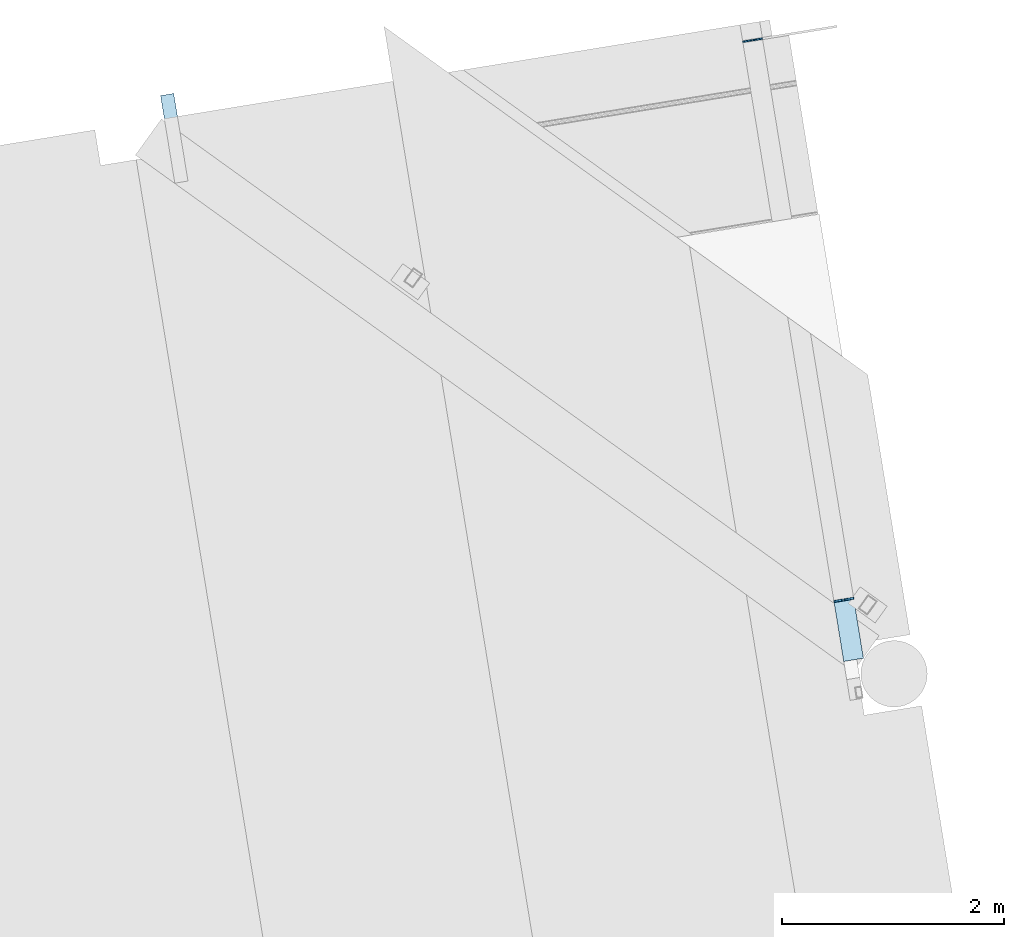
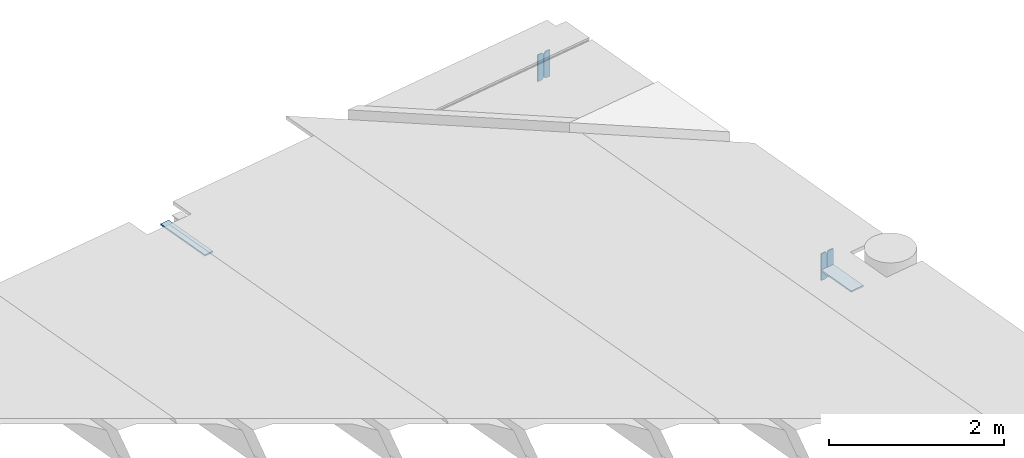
# One storey, part 4 of 5: 6 plates.
"""IFC2X3 building model written with IfcOpenShell, lengths in millimetres."""

import ifcopenshell
import ifcopenshell.guid

model = None  # the IFC model being written
_history = None  # IfcOwnerHistory: only IFC2X3 demands one
_inside = {}  # id of a spatial element -> (the spatial element, [elements in it])
_under = {}  # id of a project, library or spatial element -> (it, [spatial elements below it])
_declared = {}  # id of a project -> (the project, [libraries it declares])
_typed = {}  # id of a type object -> (the type object, [elements of that type])
_made_of = {}  # id of a material, layer set ... -> (it, [elements and type objects made of it])


def new_model(schema):
    """Start an empty IFC model of exactly this schema.

    Asked for "IFC4X3", IfcOpenShell would pick the latest addendum, in which some entities
    have other attributes; the version numbers below select the first issue.
    IFC2X3 requires an IfcOwnerHistory on every rooted entity: one is made here for all.
    """
    global model, _history
    if schema == "IFC4X3":
        model = ifcopenshell.file(schema_version=(4, 3, 0, 0))
    else:
        model = ifcopenshell.file(schema=schema)
    _inside.clear()
    _under.clear()
    _declared.clear()
    _typed.clear()
    _made_of.clear()
    _history = None
    if model.schema == "IFC2X3":
        org = make("IfcOrganization", Name="unknown")
        user = make(
            "IfcPersonAndOrganization",
            ThePerson=make("IfcPerson", FamilyName="unknown"),
            TheOrganization=org,
        )
        app = make(
            "IfcApplication",
            ApplicationDeveloper=org,
            Version="unknown",
            ApplicationFullName="unknown",
            ApplicationIdentifier="unknown",
        )
        _history = make(
            "IfcOwnerHistory",
            OwningUser=user,
            OwningApplication=app,
            ChangeAction="ADDED",
            CreationDate=0,
        )
    return model


def make(cls, **values):
    """One entity of the class cls with the attributes given. An attribute that is None is left unset."""
    return model.create_entity(
        cls, **{name: value for name, value in values.items() if value is not None}
    )


def entity(cls, *values):
    """Any entity or typed value of the class cls, its attributes in the order of the schema. None: left unset."""
    e = model.create_entity(cls)
    for i, value in enumerate(values):
        if value is not None:
            e[i] = value
    return e


def rooted(cls, **values):
    """An entity with a GlobalId (a new one), such as an element, a storey or a relation."""
    return make(cls, GlobalId=ifcopenshell.guid.new(), OwnerHistory=_history, **values)


def si_unit(unit_type, name, prefix=None):
    """IfcSIUnit, for example si_unit("LENGTHUNIT", "METRE", prefix="MILLI")."""
    return make("IfcSIUnit", UnitType=unit_type, Prefix=prefix, Name=name)


def converted_unit(unit_type, name, factor, base, dimensions=None, offset=None):
    """IfcConversionBasedUnit, such as the inch: factor (a typed value) times the base unit."""
    return make(
        "IfcConversionBasedUnit"
        if offset is None
        else "IfcConversionBasedUnitWithOffset",
        ConversionOffset=offset,
        Dimensions=None
        if dimensions is None
        else entity("IfcDimensionalExponents", *dimensions),
        UnitType=unit_type,
        Name=name,
        ConversionFactor=make(
            "IfcMeasureWithUnit", ValueComponent=factor, UnitComponent=base
        ),
    )


def derived_unit(unit_type, elements):
    """IfcDerivedUnit: a product of units, each with its exponent."""
    return make(
        "IfcDerivedUnit",
        Elements=[
            make("IfcDerivedUnitElement", Unit=unit, Exponent=power)
            for unit, power in elements
        ],
        UnitType=unit_type,
    )


def assignment(units):
    """IfcUnitAssignment: the units of a project."""
    return None if units is None else make("IfcUnitAssignment", Units=units)


def point(xyz):
    """IfcCartesianPoint."""
    return None if xyz is None else make("IfcCartesianPoint", Coordinates=xyz)


def direction(xyz):
    """IfcDirection."""
    return None if xyz is None else make("IfcDirection", DirectionRatios=xyz)


def frame(location, z_axis=None, x_axis=None):
    """IfcAxis2Placement3D, a coordinate frame: its origin and axes. An axis left out is left unset."""
    return make(
        "IfcAxis2Placement3D",
        Location=point(location),
        Axis=direction(z_axis),
        RefDirection=direction(x_axis),
    )


def frame_2d(location, x_axis=None):
    """IfcAxis2Placement2D, a coordinate frame in the plane: its origin and x axis."""
    return make(
        "IfcAxis2Placement2D", Location=point(location), RefDirection=direction(x_axis)
    )


def origin():
    """The frame at (0, 0, 0) with its axes left unset."""
    return frame((0.0, 0.0, 0.0))


def origin_with_axes():
    """The frame at (0, 0, 0) with the z axis (0, 0, 1) and the x axis (1, 0, 0) written out."""
    return frame((0.0, 0.0, 0.0), z_axis=(0.0, 0.0, 1.0), x_axis=(1.0, 0.0, 0.0))


def place(relative_to, where):
    """IfcLocalPlacement: puts the frame where relative to a parent placement (None: the world)."""
    return make(
        "IfcLocalPlacement", PlacementRelTo=relative_to, RelativePlacement=where
    )


def context(
    kind, dimensions, precision=None, world=None, true_north=None, identifier=None
):
    """IfcGeometricRepresentationContext, for example the 3D "Model" context."""
    return make(
        "IfcGeometricRepresentationContext",
        ContextIdentifier=identifier,
        ContextType=kind,
        CoordinateSpaceDimension=dimensions,
        Precision=precision,
        WorldCoordinateSystem=world,
        TrueNorth=true_north,
    )


def subcontext(parent, identifier, kind, view, scale=None):
    """IfcGeometricRepresentationSubContext, for example "Body" below "Model"."""
    return make(
        "IfcGeometricRepresentationSubContext",
        ContextIdentifier=identifier,
        ContextType=kind,
        ParentContext=parent,
        TargetScale=scale,
        TargetView=view,
    )


def project(units=None, contexts=None):
    """IfcProject with its units and contexts."""
    return rooted(
        "IfcProject",
        Name="project",
        RepresentationContexts=contexts,
        UnitsInContext=assignment(units),
    )


def spatial(cls, under=None, at=None, **own):
    """A site, building, storey or space (cls), placed at a placement, below another one or the project."""
    s = rooted(cls, ObjectPlacement=at, **own)
    if under is not None:
        _under.setdefault(under.id(), (under, []))[1].append(s)
    return s


def polyline(points):
    """IfcPolyline through the points."""
    return make("IfcPolyline", Points=[point(p) for p in points])


def profile(cls, at=None, kind="AREA", **sizes):
    """A parametric profile (cls). Its sizes go by their IFC names, for example OverallWidth=200.0."""
    return make(cls, ProfileType=kind, Position=at, **sizes)


def rectangle(**sizes):
    """IfcRectangleProfileDef."""
    return profile("IfcRectangleProfileDef", **sizes)


def outline(outer, holes=None, kind="AREA"):
    """IfcArbitraryClosedProfileDef: a profile drawn as a closed curve; with holes, ...WithVoids."""
    if holes is None:
        return make("IfcArbitraryClosedProfileDef", ProfileType=kind, OuterCurve=outer)
    return make(
        "IfcArbitraryProfileDefWithVoids",
        ProfileType=kind,
        OuterCurve=outer,
        InnerCurves=holes,
    )


def extrude(swept, where, along, depth):
    """IfcExtrudedAreaSolid: the profile swept, set in the frame where, extruded along a direction by depth."""
    return make(
        "IfcExtrudedAreaSolid",
        SweptArea=swept,
        Position=where,
        ExtrudedDirection=direction(along),
        Depth=depth,
    )


def shape(context_of_items, identifier, shape_type, items):
    """IfcShapeRepresentation: the items that make up one representation, for example the "Body"."""
    return make(
        "IfcShapeRepresentation",
        ContextOfItems=context_of_items,
        RepresentationIdentifier=identifier,
        RepresentationType=shape_type,
        Items=items,
    )


def made_of(thing, what):
    """Note that an element or type object is made of a material, layer set ...; save() writes the relation."""
    if what is not None:
        _made_of.setdefault(what.id(), (what, []))[1].append(thing)
    return thing


def type_object(cls, material=None, **own):
    """A type object (cls), such as IfcWallType, which elements share."""
    return made_of(rooted(cls, **own), material)


def element(
    cls,
    number,
    at=None,
    inside=None,
    cuts=None,
    type_object=None,
    material=None,
    context=None,
    identifier="Body",
    shape_type=None,
    held_by="IfcProductDefinitionShape",
    body=None,
    shapes=None,
    **own,
):
    """One element of the class cls, such as IfcWall. Its Tag is "e" and its number.

    at: its placement. inside: the storey or other place that contains it. cuts: it is an
    opening in that element (IfcRelVoidsElement). A single representation is given by context,
    identifier, shape_type and body (its items); several are given by shapes. held_by: the class
    of the entity that holds the representations. save() writes the other relations.
    """
    e = rooted(cls, Tag="e%d" % number, ObjectPlacement=at, **own)
    if body is not None:
        shapes = [shape(context, identifier, shape_type, body)]
    if shapes is not None:
        e.Representation = make(held_by, Representations=shapes)
    if inside is not None:
        _inside.setdefault(inside.id(), (inside, []))[1].append(e)
    if cuts is not None:
        rooted(
            "IfcRelVoidsElement", RelatingBuildingElement=cuts, RelatedOpeningElement=e
        )
    if type_object is not None:
        _typed.setdefault(type_object.id(), (type_object, []))[1].append(e)
    return made_of(e, material)


def aggregate(whole, parts):
    """IfcRelAggregates: a whole, such as a stair, and the parts it consists of."""
    return rooted("IfcRelAggregates", RelatingObject=whole, RelatedObjects=parts)


def save(model, path):
    """Write the relations noted so far, then the file.

    IfcRelAggregates (storeys below a building ...), IfcRelContainedInSpatialStructure (elements
    in a storey), IfcRelDefinesByType, IfcRelAssociatesMaterial and IfcRelDeclares: one each for
    every whole, place, type object, material and project.
    """
    for whole, parts in _under.values():
        aggregate(whole, parts)
    for where, things in _inside.values():
        rooted(
            "IfcRelContainedInSpatialStructure",
            RelatedElements=things,
            RelatingStructure=where,
        )
    for kind, things in _typed.values():
        rooted("IfcRelDefinesByType", RelatedObjects=things, RelatingType=kind)
    for what, things in _made_of.values():
        rooted("IfcRelAssociatesMaterial", RelatedObjects=things, RelatingMaterial=what)
    for by, libraries in _declared.values():
        rooted("IfcRelDeclares", RelatingContext=by, RelatedDefinitions=libraries)
    model.write(path)


model = new_model("IFC2X3")

# Units and contexts
model_context = context("Model", 3, precision=0.01, world=origin(), true_north=direction((6.12323399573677e-17, 1.0)))
plan_context = context("Plan", 3, precision=1e-05, world=origin_with_axes())
body_context = subcontext(model_context, "Body", "Model", "MODEL_VIEW")
ifc_project = project(units=[converted_unit("PLANEANGLEUNIT", "DEGREE", entity("IfcPositiveLengthMeasure", 0.0174532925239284), si_unit("PLANEANGLEUNIT", "RADIAN"), dimensions=[0, 0, 0, 0, 0, 0, 0]), si_unit("AREAUNIT", "SQUARE_METRE"), si_unit("LENGTHUNIT", "METRE", prefix="MILLI"), si_unit("MASSUNIT", "GRAM", prefix="KILO"), si_unit("POWERUNIT", "WATT"), si_unit("PRESSUREUNIT", "PASCAL", prefix="KILO"), si_unit("FORCEUNIT", "NEWTON", prefix="KILO"), si_unit("ELECTRICVOLTAGEUNIT", "VOLT"), si_unit("ELECTRICCURRENTUNIT", "AMPERE"), si_unit("THERMODYNAMICTEMPERATUREUNIT", "DEGREE_CELSIUS"), si_unit("TIMEUNIT", "SECOND"), si_unit("VOLUMEUNIT", "CUBIC_METRE"), derived_unit("LINEARVELOCITYUNIT", [(si_unit("LENGTHUNIT", "METRE"), 1), (si_unit("TIMEUNIT", "SECOND"), -1)]), derived_unit("VOLUMETRICFLOWRATEUNIT", [(si_unit("VOLUMEUNIT", "CUBIC_METRE"), 1), (si_unit("TIMEUNIT", "SECOND"), -1)]), derived_unit("THERMALTRANSMITTANCEUNIT", [(si_unit("POWERUNIT", "WATT"), 1), (si_unit("THERMODYNAMICTEMPERATUREUNIT", "KELVIN"), -1), (si_unit("AREAUNIT", "SQUARE_METRE"), -1)]), derived_unit("SOUNDPRESSUREUNIT", [(si_unit("PRESSUREUNIT", "PASCAL"), 1)])], contexts=[model_context, plan_context])

# Site, building, storey
site_placement = place(None, frame((5.09380697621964e-08, 5.80416781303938e-08, 0.0), z_axis=(0.0, 0.0, 1.0), x_axis=(-0.160806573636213, 0.986985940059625, 0.0)))
site = spatial("IfcSite", under=ifc_project, at=site_placement, Name="Default", CompositionType="ELEMENT")
building_placement = place(site_placement, frame((0.0, 0.0, 0.0), z_axis=(0.0, 0.0, 1.0), x_axis=(1.0, -2.77555756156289e-17, 0.0)))
building = spatial("IfcBuilding", under=site, at=building_placement, CompositionType="ELEMENT")
storey_placement = place(building_placement, frame((0.0, 0.0, 51360.0000000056), z_axis=(0.0, 0.0, 1.0), x_axis=(1.0, -2.77555756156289e-17, 0.0)))
storey = spatial("IfcBuildingStorey", under=building, at=storey_placement, Name="H01-Nivå D+0,36", CompositionType="ELEMENT", Elevation=51360.0000000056)

# Plates
plate_type_1 = type_object("IfcPlateType", Name="PL20*120", PredefinedType="NOTDEFINED")
plate_1_placement = place(storey_placement, frame((0.0, 0.0, 0.0), z_axis=(0.0, 0.0, 1.0), x_axis=(1.0, -2.77555756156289e-17, 0.0)))
element("IfcPlate", 1, at=plate_1_placement, inside=storey, type_object=plate_type_1, Name="STÅLBJELKE", ObjectType="PL20*120", context=body_context, shape_type="SweptSolid", body=[
    extrude(rectangle(XDim=800.000000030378, YDim=119.999999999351, at=frame_2d((-3.60375906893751e-09, 4.50491199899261e-10), x_axis=(1.0, 0.0))), frame((1016448.55816105, -390750.222910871, 3540.00001851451), z_axis=(0.0, 3.0866990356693e-07, 1.0), x_axis=(-1.0, -5.1480039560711e-06, 0.0)), (0.0, 0.0, 1.0), 19.9999999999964),
])
plate_type_2 = type_object("IfcPlateType", Name="PL16*86", PredefinedType="NOTDEFINED")
plate_2_placement = place(storey_placement, frame((0.0, 0.0, 0.0), z_axis=(0.0, 0.0, 1.0), x_axis=(1.0, -2.77555756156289e-17, 0.0)))
element("IfcPlate", 2, at=plate_2_placement, inside=storey, type_object=plate_type_2, Name="STÅLBJELKE", ObjectType="PL16*86", context=body_context, shape_type="SweptSolid", body=[
    extrude(outline(polyline([(-186.499999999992, -52.133331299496), (186.499999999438, -52.133331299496), (186.499999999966, 18.5666656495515), (171.500000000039, 33.5666656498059), (-171.499999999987, 33.5666656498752), (-186.499999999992, 18.5666656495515), (-186.499999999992, -52.133331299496)])), frame((1011361.58131896, -396002.37900931, 3594.99999999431), z_axis=(1.0, 4.2675055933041e-06, 0.0), x_axis=(0.0, 0.0, 1.0)), (0.0, 0.0, 1.0), 16.0000000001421),
])
plate_3_placement = place(storey_placement, frame((0.0, 0.0, 0.0), z_axis=(0.0, 0.0, 1.0), x_axis=(1.0, -2.77555756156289e-17, 0.0)))
element("IfcPlate", 3, at=plate_3_placement, inside=storey, type_object=plate_type_2, Name="STÅLBJELKE", ObjectType="PL16*86", context=body_context, shape_type="SweptSolid", body=[
    extrude(outline(polyline([(-186.500000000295, -52.1333312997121), (186.500000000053, -52.1333312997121), (186.500000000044, 18.5666656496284), (171.500000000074, 33.5666656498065), (-171.499999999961, 33.5666656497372), (-186.499999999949, 18.5666656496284), (-186.500000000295, -52.1333312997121)])), frame((1011361.58162353, -396078.112353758, 3594.99999999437), z_axis=(1.0, 5.14803644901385e-06, 0.0), x_axis=(0.0, 0.0, -1.0)), (0.0, 0.0, 1.0), 16.0000000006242),
])
plate_type_3 = type_object("IfcPlateType", Name="PL12*86", PredefinedType="NOTDEFINED")
plate_4_placement = place(storey_placement, frame((0.0, 0.0, 0.0), z_axis=(0.0, 0.0, 1.0), x_axis=(1.0, -2.77555756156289e-17, 0.0)))
element("IfcPlate", 4, at=plate_4_placement, inside=storey, type_object=plate_type_3, Name="STÅLBJELKE", ObjectType="PL12*86", context=body_context, shape_type="SweptSolid", body=[
    extrude(outline(polyline([(-186.500000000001, -50.4666646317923), (186.500000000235, -50.4666646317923), (186.50000000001, 15.2333323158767), (166.500000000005, 35.2333323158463), (-166.499999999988, 35.2333323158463), (-186.50000000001, 15.233332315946), (-186.500000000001, -50.4666646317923)])), frame((1016477.58131217, -396000.689735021, 3594.99999999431), z_axis=(1.0, 4.26739304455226e-06, 0.0), x_axis=(0.0, 0.0, 1.0)), (0.0, 0.0, 1.0), 12.0000000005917),
])
plate_5_placement = place(storey_placement, frame((0.0, 0.0, 0.0), z_axis=(0.0, 0.0, 1.0), x_axis=(1.0, -2.77555756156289e-17, 0.0)))
element("IfcPlate", 5, at=plate_5_placement, inside=storey, type_object=plate_type_3, Name="STÅLBJELKE", ObjectType="PL12*86", context=body_context, shape_type="SweptSolid", body=[
    extrude(outline(polyline([(-186.499999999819, -50.4666646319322), (186.499999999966, -50.4666646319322), (186.499999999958, 15.2333323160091), (166.499999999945, 35.2333323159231), (-166.50000000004, 35.2333323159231), (-186.50000000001, 15.2333323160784), (-186.499999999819, -50.4666646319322)])), frame((1016477.58163246, -396079.756411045, 3594.99999999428), z_axis=(1.0, 5.14792090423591e-06, 0.0), x_axis=(0.0, 0.0, -1.0)), (0.0, 0.0, 1.0), 12.000000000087),
])
plate_type_4 = type_object("IfcPlateType", Name="PL20*180", PredefinedType="NOTDEFINED")
plate_6_placement = place(storey_placement, frame((0.0, 0.0, 0.0), z_axis=(0.0, 0.0, 1.0), x_axis=(1.0, -2.77555756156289e-17, 0.0)))
element("IfcPlate", 6, at=plate_6_placement, inside=storey, type_object=plate_type_4, Name="STÅLBJELKE", ObjectType="PL20*180", context=body_context, shape_type="SweptSolid", body=[
    extrude(rectangle(XDim=540.00000002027, YDim=179.999999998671, at=frame_2d((-6.93205493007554e-11, 1.3861267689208e-10), x_axis=(1.0, 0.0))), frame((1011091.58142858, -396040.24667556, 3539.99999999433)), (0.0, 0.0, 1.0), 19.9999999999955),
])

save(model, "model.ifc")
